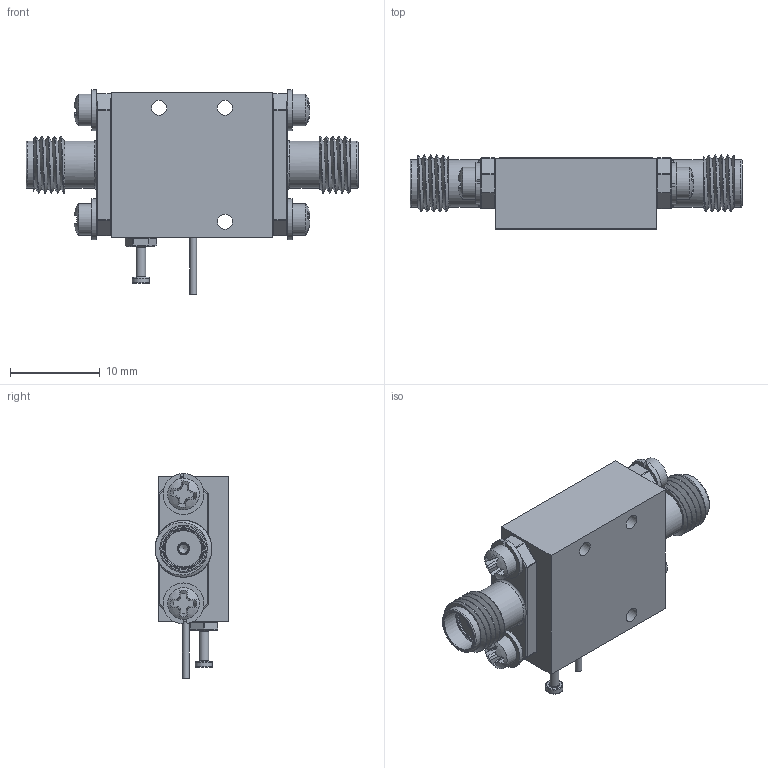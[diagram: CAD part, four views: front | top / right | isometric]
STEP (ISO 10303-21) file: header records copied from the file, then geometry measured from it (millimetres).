
FILE_DESCRIPTION (( 'STEP AP214' ), '1' );
FILE_NAME ('PEC4-16-50M18G-4R0-19-15-SFF.STEP', '2026-06-24T15:33:50', ( '' ), ( '' ), 'SwSTEP 2.0', 'SolidWorks 2025', '' );
FILE_SCHEMA (( 'AUTOMOTIVE_DESIGN' ));
Length unit declared in the file: inch
Products named in the file (1): PEC4-16-50M18G-4R0-19-15-SFF
Bounding box: 37.08 x 8.26 x 22.87 mm (x, y, z)
Volume: 2969.5 mm3; surface area: 3265.3 mm2
Topology: 18 solids, 18 shells, 585 faces, 2058 edges, 1615 vertices
Faces by surface type: plane 301, cylinder 121, sphere 60, torus 52, cone 31, bspline 20
Full cylindrical faces by diameter (mm): 0.305 x2, 0.508 x2, 0.762 x3, 1.016 x2, 1.067 x1, 1.27 x2, 1.683 x3, 1.93 x1, 2.184 x6, 2.591 x4, 3.302 x2, 3.556 x4, 4.191 x4, 4.597 x2, 5.283 x4
Entity records: 35333 total; most frequent: CARTESIAN_POINT 10072, ORIENTED_EDGE 3810, DIRECTION 3222, EDGE_CURVE 1905, VERTEX_POINT 1599, AXIS2_PLACEMENT_3D 1121, LINE 980, VECTOR 980
